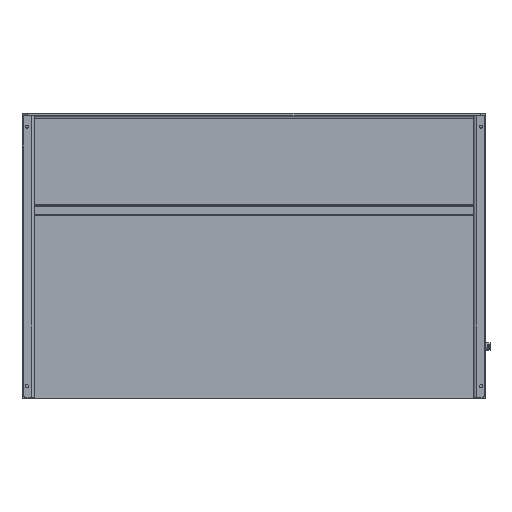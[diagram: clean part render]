
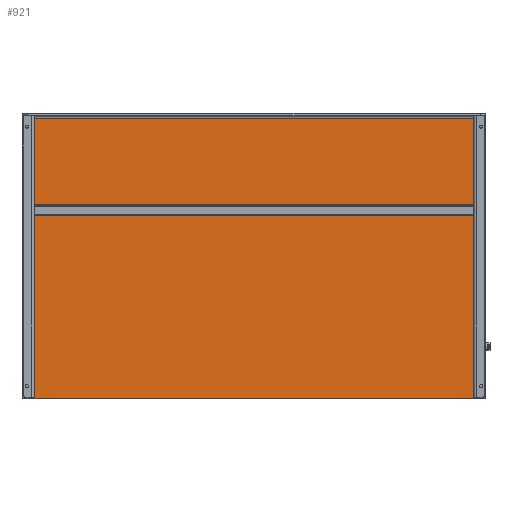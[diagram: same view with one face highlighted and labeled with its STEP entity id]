
A CAD part, front view. The second image highlights one B-rep face of the part: STEP entity #921.
In plain terms, the highlighted planar face has unit normal (0, -1, 0).
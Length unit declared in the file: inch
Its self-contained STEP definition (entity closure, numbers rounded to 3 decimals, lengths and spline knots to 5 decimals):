
#921 = ADVANCED_FACE ( 'NONE', ( #20376 ), #8913, .T. ) ;
#1579 = CARTESIAN_POINT ( 'NONE',  ( -63.33067, 7.76571, 27.24883 ) ) ;
#2406 = ORIENTED_EDGE ( 'NONE', *, *, #69828, .F. ) ;
#2947 = DIRECTION ( 'NONE',  ( 0., 0., 1. ) ) ;
#3804 = ORIENTED_EDGE ( 'NONE', *, *, #47723, .F. ) ;
#7272 = DIRECTION ( 'NONE',  ( -1., 0., 0. ) ) ;
#7670 = DIRECTION ( 'NONE',  ( 0., 0., -1. ) ) ;
#7764 = DIRECTION ( 'NONE',  ( 0., -1., 0. ) ) ;
#7969 = CARTESIAN_POINT ( 'NONE',  ( -63.33067, 7.76571, -23.48217 ) ) ;
#8913 = PLANE ( 'NONE',  #43942 ) ;
#10298 = ORIENTED_EDGE ( 'NONE', *, *, #58667, .F. ) ;
#13250 = LINE ( 'NONE', #53525, #85318 ) ;
#13485 = CARTESIAN_POINT ( 'NONE',  ( -63.33067, 7.76571, -23.48217 ) ) ;
#20376 = FACE_OUTER_BOUND ( 'NONE', #32273, .T. ) ;
#23563 = DIRECTION ( 'NONE',  ( 0., 0., -1. ) ) ;
#25493 = VECTOR ( 'NONE', #23563, 39.37008 ) ;
#28757 = CARTESIAN_POINT ( 'NONE',  ( -63.33067, 7.76571, -23.48217 ) ) ;
#31080 = VECTOR ( 'NONE', #64761, 39.37008 ) ;
#32273 = EDGE_LOOP ( 'NONE', ( #3804, #49363, #10298, #2406 ) ) ;
#34488 = CARTESIAN_POINT ( 'NONE',  ( 20.66933, 7.76571, -23.48217 ) ) ;
#38574 = VERTEX_POINT ( 'NONE', #13485 ) ;
#43942 = AXIS2_PLACEMENT_3D ( 'NONE', #7969, #7764, #7670 ) ;
#47723 = EDGE_CURVE ( 'NONE', #80130, #60699, #80688, .T. ) ;
#49363 = ORIENTED_EDGE ( 'NONE', *, *, #92217, .F. ) ;
#53232 = CARTESIAN_POINT ( 'NONE',  ( 20.66933, 7.76571, 28.14283 ) ) ;
#53525 = CARTESIAN_POINT ( 'NONE',  ( -63.33067, 7.76571, 28.14283 ) ) ;
#58667 = EDGE_CURVE ( 'NONE', #38574, #66576, #13250, .T. ) ;
#60699 = VERTEX_POINT ( 'NONE', #34488 ) ;
#64761 = DIRECTION ( 'NONE',  ( 1., 0., 0. ) ) ;
#66576 = VERTEX_POINT ( 'NONE', #1579 ) ;
#69285 = LINE ( 'NONE', #78603, #31080 ) ;
#69828 = EDGE_CURVE ( 'NONE', #60699, #38574, #77466, .T. ) ;
#77466 = LINE ( 'NONE', #28757, #89918 ) ;
#78603 = CARTESIAN_POINT ( 'NONE',  ( -63.33067, 7.76571, 27.24883 ) ) ;
#80130 = VERTEX_POINT ( 'NONE', #82070 ) ;
#80688 = LINE ( 'NONE', #53232, #25493 ) ;
#82070 = CARTESIAN_POINT ( 'NONE',  ( 20.66933, 7.76571, 27.24883 ) ) ;
#85318 = VECTOR ( 'NONE', #2947, 39.37008 ) ;
#89918 = VECTOR ( 'NONE', #7272, 39.37008 ) ;
#92217 = EDGE_CURVE ( 'NONE', #66576, #80130, #69285, .T. ) ;
